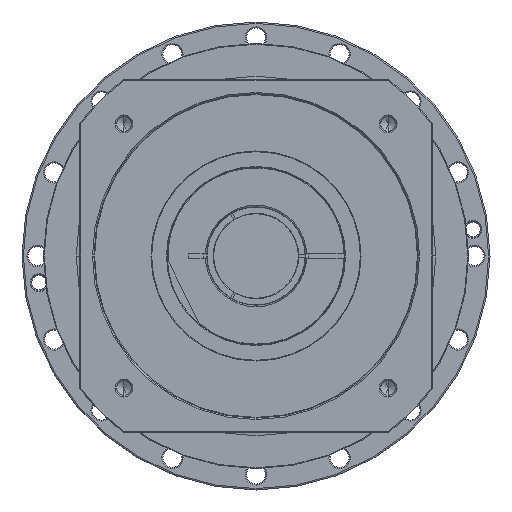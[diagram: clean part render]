
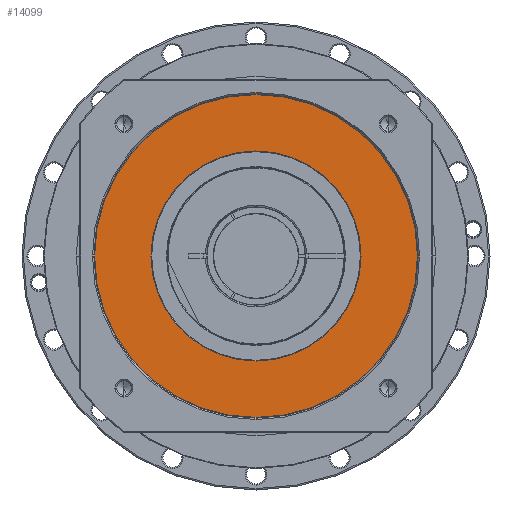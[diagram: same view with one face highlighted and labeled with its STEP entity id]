
A CAD part, left-side view. The second image highlights one B-rep face of the part: STEP entity #14099.
In plain terms, the highlighted planar face has unit normal (-1, 0, 0) as drawn and (0, 0, 1) by its records, which use the part's own axes.
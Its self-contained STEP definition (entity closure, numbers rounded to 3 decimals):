
#12830=CARTESIAN_POINT('',(0.,0.,58.));
#12831=DIRECTION('',(0.,0.,-1.));
#12832=DIRECTION('',(0.,-1.,0.));
#12833=AXIS2_PLACEMENT_3D('',#12830,#12831,#12832);
#12835=CARTESIAN_POINT('',(0.,0.,58.));
#12836=DIRECTION('',(0.,0.,-1.));
#12837=DIRECTION('',(0.,1.,0.));
#12838=AXIS2_PLACEMENT_3D('',#12835,#12836,#12837);
#12840=CARTESIAN_POINT('',(0.,0.,58.));
#12841=DIRECTION('',(0.,0.,-1.));
#12842=DIRECTION('',(1.,0.,0.));
#12843=AXIS2_PLACEMENT_3D('',#12840,#12841,#12842);
#12858=CARTESIAN_POINT('',(0.,0.,58.));
#12859=DIRECTION('',(0.,0.,-1.));
#12860=DIRECTION('',(-1.,0.,0.));
#12861=AXIS2_PLACEMENT_3D('',#12858,#12859,#12860);
#13393=CARTESIAN_POINT('',(0.,-114.5,58.));
#13394=CARTESIAN_POINT('',(0.,114.5,58.));
#13395=VERTEX_POINT('',#13393);
#13396=VERTEX_POINT('',#13394);
#13401=CARTESIAN_POINT('',(-74.5,0.,58.));
#13402=CARTESIAN_POINT('',(74.5,0.,58.));
#13403=VERTEX_POINT('',#13401);
#13404=VERTEX_POINT('',#13402);
#14083=CARTESIAN_POINT('',(0.,0.,58.));
#14084=DIRECTION('',(0.,0.,-1.));
#14085=DIRECTION('',(0.,-1.,0.));
#14086=AXIS2_PLACEMENT_3D('',#14083,#14084,#14085);
#14087=PLANE('',#14086);
#14089=ORIENTED_EDGE('',*,*,#14088,.T.);
#14090=ORIENTED_EDGE('',*,*,#14073,.T.);
#14091=EDGE_LOOP('',(#14089,#14090));
#14092=FACE_OUTER_BOUND('',#14091,.F.);
#14094=ORIENTED_EDGE('',*,*,#14093,.F.);
#14096=ORIENTED_EDGE('',*,*,#14095,.F.);
#14097=EDGE_LOOP('',(#14094,#14096));
#14098=FACE_BOUND('',#14097,.F.);
#14099=ADVANCED_FACE('',(#14092,#14098),#14087,.F.);
#12834=CIRCLE('',#12833,114.5);
#12839=CIRCLE('',#12838,114.5);
#12844=CIRCLE('',#12843,74.5);
#12862=CIRCLE('',#12861,74.5);
#14073=EDGE_CURVE('',#13396,#13395,#12839,.T.);
#14088=EDGE_CURVE('',#13395,#13396,#12834,.T.);
#14093=EDGE_CURVE('',#13404,#13403,#12844,.T.);
#14095=EDGE_CURVE('',#13403,#13404,#12862,.T.);
